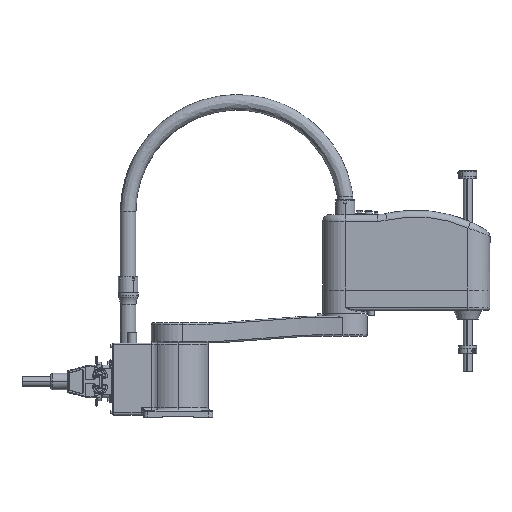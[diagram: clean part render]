
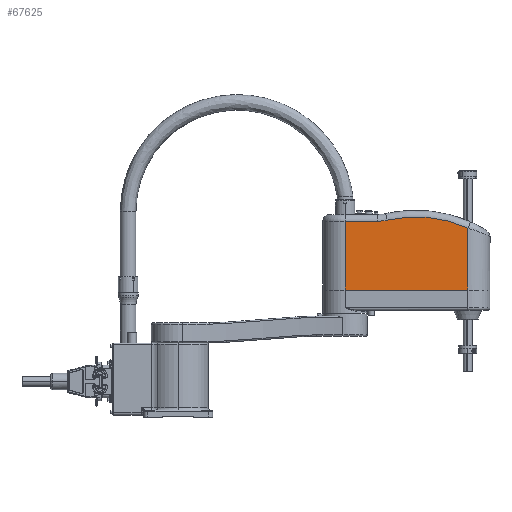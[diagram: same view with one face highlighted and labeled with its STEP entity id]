
A CAD part, top view. The second image highlights one B-rep face of the part: STEP entity #67625.
In plain terms, the highlighted planar face has unit normal (0, 0, 1) as drawn and (0, 1, 0) by its records, which use the part's own axes.
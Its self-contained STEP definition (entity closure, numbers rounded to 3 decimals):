
#1242 = VECTOR ( 'NONE', #105402, 1000. ) ;
#5352 = DIRECTION ( 'NONE',  ( 0., 1., 0. ) ) ;
#9491 = CIRCLE ( 'NONE', #24403, 285. ) ;
#9875 = CARTESIAN_POINT ( 'NONE',  ( 137.5, 50., 0. ) ) ;
#9985 = DIRECTION ( 'NONE',  ( 0., 0., -1. ) ) ;
#10883 = ORIENTED_EDGE ( 'NONE', *, *, #32918, .T. ) ;
#10907 = LINE ( 'NONE', #100555, #105313 ) ;
#11443 = DIRECTION ( 'NONE',  ( 0., 0., -1. ) ) ;
#12374 = ORIENTED_EDGE ( 'NONE', *, *, #30274, .T. ) ;
#13936 = AXIS2_PLACEMENT_3D ( 'NONE', #111743, #66325, #11443 ) ;
#15467 = LINE ( 'NONE', #55302, #61339 ) ;
#24403 = AXIS2_PLACEMENT_3D ( 'NONE', #60214, #5352, #69370 ) ;
#30274 = EDGE_CURVE ( 'NONE', #76158, #58581, #10907, .T. ) ;
#32310 = LINE ( 'NONE', #40833, #102224 ) ;
#32427 = CARTESIAN_POINT ( 'NONE',  ( -137.5, 50., 0. ) ) ;
#32918 = EDGE_CURVE ( 'NONE', #37185, #76158, #79304, .T. ) ;
#36205 = ORIENTED_EDGE ( 'NONE', *, *, #59280, .F. ) ;
#37185 = VERTEX_POINT ( 'NONE', #48699 ) ;
#37850 = VERTEX_POINT ( 'NONE', #51259 ) ;
#38766 = PLANE ( 'NONE',  #13936 ) ;
#40833 = CARTESIAN_POINT ( 'NONE',  ( 137.5, 50., 230. ) ) ;
#41502 = FACE_OUTER_BOUND ( 'NONE', #74124, .T. ) ;
#41938 = EDGE_CURVE ( 'NONE', #92825, #108958, #49977, .T. ) ;
#42014 = DIRECTION ( 'NONE',  ( 0., -1., 0. ) ) ;
#44391 = EDGE_CURVE ( 'NONE', #37850, #37185, #9491, .T. ) ;
#45213 = EDGE_CURVE ( 'NONE', #58581, #92825, #32310, .T. ) ;
#48699 = CARTESIAN_POINT ( 'NONE',  ( 43.343, 50., 156.912 ) ) ;
#49977 = LINE ( 'NONE', #32427, #1242 ) ;
#51259 = CARTESIAN_POINT ( 'NONE',  ( -137.5, 50., 139.012 ) ) ;
#51280 = AXIS2_PLACEMENT_3D ( 'NONE', #96635, #42014, #105805 ) ;
#54793 = ORIENTED_EDGE ( 'NONE', *, *, #41938, .T. ) ;
#55302 = CARTESIAN_POINT ( 'NONE',  ( -137.5, 50., 230. ) ) ;
#57488 = ORIENTED_EDGE ( 'NONE', *, *, #45213, .T. ) ;
#58581 = VERTEX_POINT ( 'NONE', #87960 ) ;
#59280 = EDGE_CURVE ( 'NONE', #37850, #108958, #15467, .T. ) ;
#60214 = CARTESIAN_POINT ( 'NONE',  ( -20.47, 50., -120.852 ) ) ;
#61339 = VECTOR ( 'NONE', #9985, 1000. ) ;
#61700 = CARTESIAN_POINT ( 'NONE',  ( 64.615, 50., 154.5 ) ) ;
#64290 = DIRECTION ( 'NONE',  ( 1., 0., 0. ) ) ;
#66325 = DIRECTION ( 'NONE',  ( 0., -1., 0. ) ) ;
#67625 = ADVANCED_FACE ( 'NONE', ( #41502 ), #38766, .F. ) ;
#68307 = CARTESIAN_POINT ( 'NONE',  ( -137.5, 50., 0. ) ) ;
#68345 = DIRECTION ( 'NONE',  ( 0., 0., -1. ) ) ;
#69370 = DIRECTION ( 'NONE',  ( 0., 0., -1. ) ) ;
#74124 = EDGE_LOOP ( 'NONE', ( #10883, #12374, #57488, #54793, #36205, #104348 ) ) ;
#76158 = VERTEX_POINT ( 'NONE', #61700 ) ;
#79304 = CIRCLE ( 'NONE', #51280, 95. ) ;
#87960 = CARTESIAN_POINT ( 'NONE',  ( 137.5, 50., 154.5 ) ) ;
#92825 = VERTEX_POINT ( 'NONE', #9875 ) ;
#96635 = CARTESIAN_POINT ( 'NONE',  ( 64.615, 50., 249.5 ) ) ;
#100555 = CARTESIAN_POINT ( 'NONE',  ( -137.5, 50., 154.5 ) ) ;
#102224 = VECTOR ( 'NONE', #68345, 1000. ) ;
#104348 = ORIENTED_EDGE ( 'NONE', *, *, #44391, .T. ) ;
#105313 = VECTOR ( 'NONE', #64290, 1000. ) ;
#105402 = DIRECTION ( 'NONE',  ( -1., 0., 0. ) ) ;
#105805 = DIRECTION ( 'NONE',  ( 0., 0., -1. ) ) ;
#108958 = VERTEX_POINT ( 'NONE', #68307 ) ;
#111743 = CARTESIAN_POINT ( 'NONE',  ( -137.5, 50., 230. ) ) ;
